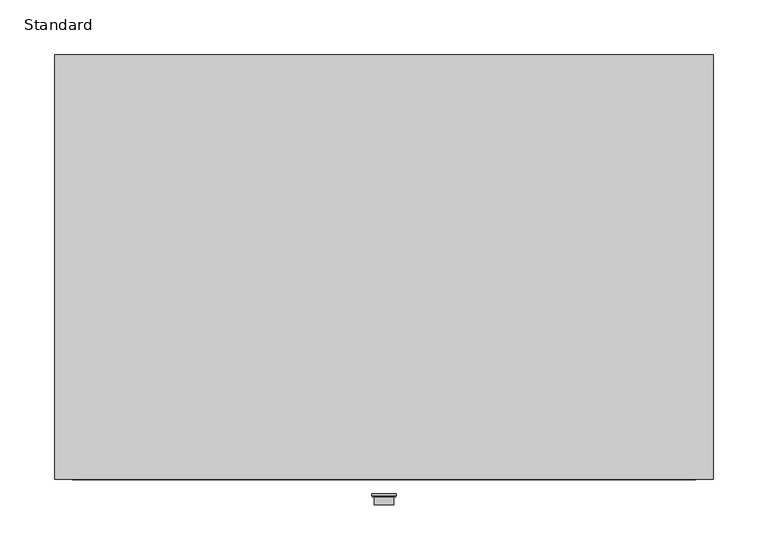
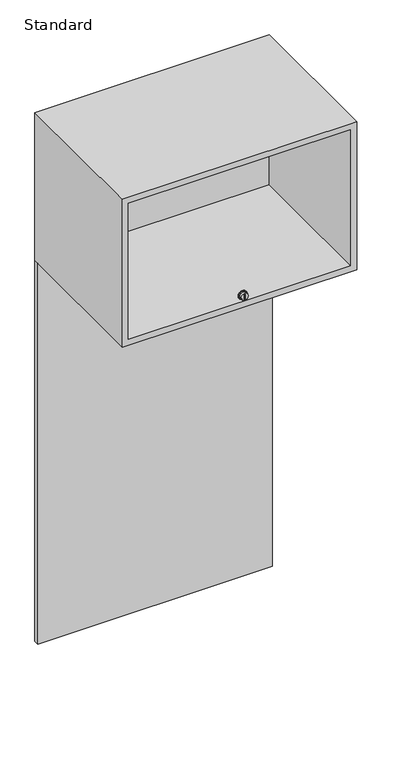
"""IFC4 building model written with IfcOpenShell, lengths in millimetres: furniture geometry, X_Locker-Duracube-Player Bay : Standard."""

from ifc_helpers import new_model, si_unit, point, frame, frame_2d, origin, origin_with_axes, place, context, project, spatial, polyline, circle_curve, ellipse_curve, trimmed, segment, composite_curve, outline, extrude, faceted_brep, source, transform, mapped, element, save
from ifc_brep_helpers import plane_surface, revolved_surface, advanced_brep


def standard_4fa27b75(model_context):
    return source(origin(), model_context, "Body", "SolidModel", [
        extrude(outline(composite_curve([segment(trimmed(circle_curve(frame_2d((1075.0, 44.7003264)), 11.0), [point((1075.0, 33.7003264))], [point((1075.0, 55.7003264))], False, "CARTESIAN"), True, "CONTINUOUS"), segment(trimmed(circle_curve(frame_2d((1075.0, 44.7003264)), 11.0), [point((1075.0, 55.7003264))], [point((1075.0, 33.7003264))], False, "CARTESIAN"), True, "CONTINUOUS")], self_intersect=False)), frame((0.0, -402.0, 0.0), z_axis=(0.0, 1.0, 0.0), x_axis=(0.0, 0.0, 1.0)), (0.0, 0.0, 1.0), 2.0),
        advanced_brep(
        [(44.7003264, -403.0, 1066.0), (44.7003264, -403.0, 1084.0), (44.7003264, -402.0, 1086.0), (44.7003264, -402.0, 1064.0), (44.7003264, -402.0, 1066.0), (44.7003264, -402.0, 1084.0)],
        [
            (0, 1, circle_curve(frame((44.7003264, -403.0, 1075.0), z_axis=(0.0, 1.0, 0.0), x_axis=(0.0, 0.0, 1.0)), 9.0)),
            (1, 2, ellipse_curve(frame((44.7003264, -402.0, 1084.0), z_axis=(-1.0, 0.0, 0.0), x_axis=(0.0, 0.0, 1.0)), 2.0, 1.0)),
            (2, 3, circle_curve(frame((44.7003264, -402.0, 1075.0), z_axis=(0.0, -1.0, 0.0), x_axis=(0.0, 0.0, 1.0)), 11.0)),
            (3, 0, ellipse_curve(frame((44.7003264, -402.0, 1066.0), z_axis=(-1.0, 0.0, 0.0), x_axis=(0.0, 0.0, -1.0)), 2.0, 1.0)),
            (1, 0, circle_curve(frame((44.7003264, -403.0, 1075.0), z_axis=(0.0, 1.0, 0.0), x_axis=(0.0, 0.0, 1.0)), 9.0)),
            (3, 2, circle_curve(frame((44.7003264, -402.0, 1075.0), z_axis=(0.0, -1.0, 0.0), x_axis=(0.0, 0.0, 1.0)), 11.0)),
            (4, 5, circle_curve(frame((44.7003264, -402.0, 1075.0), z_axis=(0.0, 1.0, 0.0), x_axis=(0.0, 0.0, 1.0)), 9.0)),
            (5, 1),
            (0, 4),
            (5, 4, circle_curve(frame((44.7003264, -402.0, 1075.0), z_axis=(0.0, 1.0, 0.0), x_axis=(0.0, 0.0, 1.0)), 9.0)),
            (2, 5),
            (4, 3),
        ],
        [
            revolved_surface(trimmed(ellipse_curve(frame((44.7003264, -402.0, 1084.0), z_axis=(1.0, 0.0, 0.0), x_axis=(0.0, 0.0, 1.0)), 2.0, 1.0), [point((44.7003264, -402.0, 1086.0))], [point((44.7003264, -403.0, 1084.0))], True, "CARTESIAN"), (44.7003264, -402.0, 1075.0), (0.0, -1.0, 0.0)),
            revolved_surface(polyline([(44.7003264, -403.0, 1084.0), (44.7003264, -402.0, 1084.0)]), (44.7003264, -402.0, 1075.0), (0.0, -1.0, 0.0)),
            plane_surface(frame((44.7003264, -402.0, 1075.0), z_axis=(0.0, 1.0, 0.0), x_axis=(0.0, 0.0, 1.0))),
        ],
        [
            (0, [[1, 2, 3, 4]]),
            (0, [[5, -4, 6, -2]]),
            (1, [[7, 8, -1, 9]]),
            (1, [[10, -9, -5, -8]]),
            (2, [[-3, 11, -7, 12]]),
            (2, [[-6, -12, -10, -11]]),
        ],
    ),
        extrude(outline(polyline([(45.7003264, -409.0), (43.7003264, -409.0), (43.7003264, -407.0), (45.7003264, -407.0), (45.7003264, -409.0)])), frame((0.0, 0.0, 1068.0), z_axis=(0.0, 0.0, 1.0), x_axis=(1.0, 0.0, 0.0)), (0.0, 0.0, 1.0), 14.0),
        extrude(outline(composite_curve([segment(trimmed(circle_curve(frame_2d((1075.0, 44.7003264)), 9.0), [point((1075.0, 35.7003264))], [point((1075.0, 53.7003264))], False, "CARTESIAN"), True, "CONTINUOUS"), segment(trimmed(circle_curve(frame_2d((1075.0, 44.7003264)), 9.0), [point((1075.0, 53.7003264))], [point((1075.0, 35.7003264))], False, "CARTESIAN"), True, "CONTINUOUS")], self_intersect=False), holes=[polyline([(1082.0, 45.7003264), (1068.0, 45.7003264), (1068.0, 43.7003264), (1082.0, 43.7003264), (1082.0, 45.7003264)])]), frame((0.0, -410.0, 0.0), z_axis=(0.0, 1.0, 0.0), x_axis=(0.0, 0.0, 1.0)), (0.0, 0.0, 1.0), 8.0),
        faceted_brep([(344.7003264, -387.0, 1430.0), (-255.2996736, -387.0, 1430.0), (-255.2996736, -387.0, 1030.0), (344.7003264, -387.0, 1030.0), (328.7003264, -387.0, 1414.0), (328.7003264, -387.0, 1046.0), (-239.2996736, -387.0, 1046.0), (-239.2996736, -387.0, 1414.0), (344.7003264, 0.0, 1430.0), (344.7003264, 0.0, 1030.0), (-255.2996736, 0.0, 1030.0), (-255.2996736, 0.0, 1430.0), (328.7003264, 0.0, 1414.0), (-239.2996736, 0.0, 1414.0), (-239.2996736, 0.0, 1046.0), (328.7003264, 0.0, 1046.0), (328.7003264, -26.0, 1414.0), (328.7003264, -26.0, 1046.0), (328.7003264, -10.0, 1046.0), (328.7003264, -10.0, 1414.0), (-239.2996736, -26.0, 1046.0), (-239.2996736, -10.0, 1046.0), (-239.2996736, -26.0, 1414.0), (-239.2996736, -10.0, 1414.0)], [[[0, 1, 2, 3], [4, 5, 6, 7]], [[8, 9, 10, 11], [12, 13, 14, 15]], [[1, 0, 8, 11]], [[2, 1, 11, 10]], [[3, 2, 10, 9]], [[0, 3, 9, 8]], [[5, 4, 16, 17]], [[12, 15, 18, 19]], [[6, 5, 17, 20]], [[15, 14, 21, 18]], [[7, 6, 20, 22]], [[14, 13, 23, 21]], [[4, 7, 22, 16]], [[13, 12, 19, 23]], [[17, 16, 22, 20]], [[19, 18, 21, 23]]]),
        extrude(outline(polyline([(344.7003264, 0.0), (344.7003264, -13.0), (-255.2996736, -13.0), (-255.2996736, 0.0), (344.7003264, 0.0)])), origin_with_axes(), (0.0, 0.0, 1.0), 1030.0),
    ])


if __name__ == "__main__":
    model = new_model("IFC4")
    model_context = context("Model", 3, world=origin())
    ifc_project = project(units=[si_unit("LENGTHUNIT", "METRE", prefix="MILLI")], contexts=[model_context])
    site = spatial("IfcSite", under=ifc_project)
    building = spatial("IfcBuilding", under=site)
    placement = place(None, origin())
    standard_shape = standard_4fa27b75(model_context)
    element("IfcFurniture", 1, ObjectType="X_Locker-Duracube-Player Bay : Standard", at=placement, inside=building, context=model_context, shape_type="MappedRepresentation", body=[
        mapped(standard_shape, transform((0.0, 0.0, 0.0), x_axis=(1.0, 0.0, 0.0), y_axis=(0.0, 1.0, 0.0), z_axis=(0.0, 0.0, 1.0))),
    ])
    save(model, "model.ifc")
